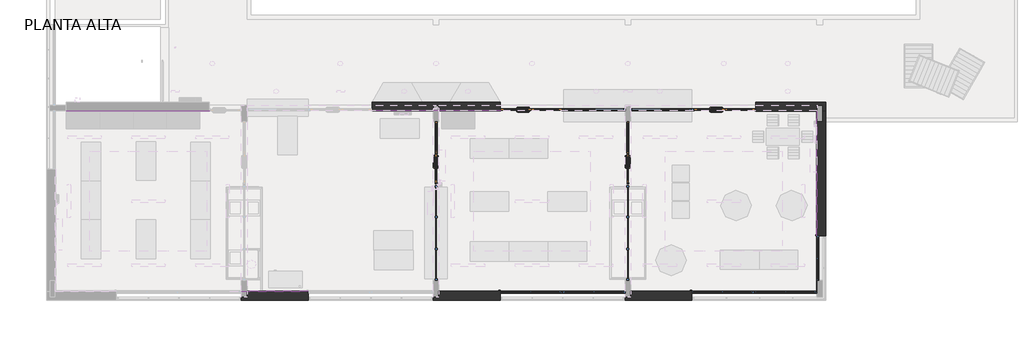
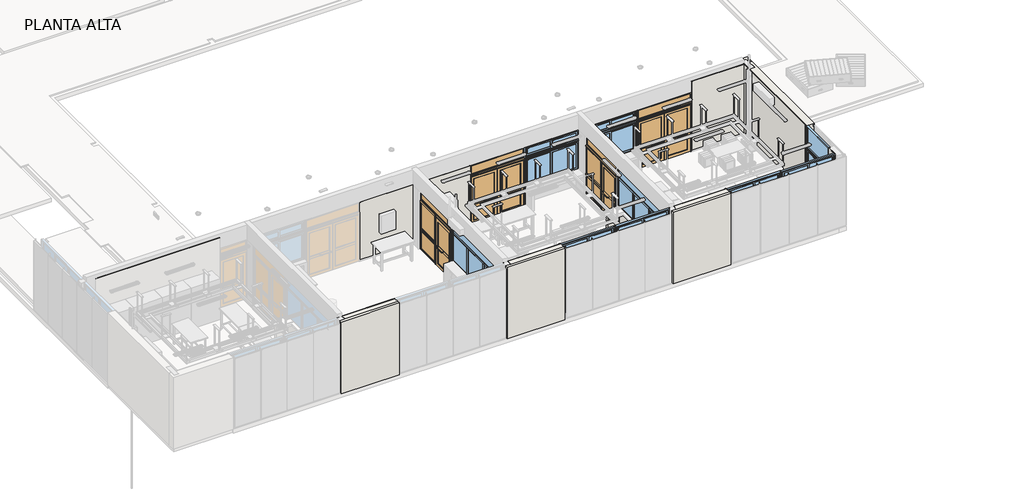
# One storey, part 2 of 14: 13 walls, 7 windows, 4 doors, 4 proxies.
"""IFC4 building model written with IfcOpenShell, lengths in millimetres."""

from ifc_helpers import new_model, si_unit, frame, origin, place, context, project, spatial, polyline, outline, extrude, faceted_brep, transform, mapped, element, save
from components import door_b16d659e, door_238ea07a, window_82c0303f, window_4282aa82, window_1c25787f, window_713f67d2, window_2fd942e6, window_f213b4f0

model = new_model("IFC4")

# Units and contexts
model_context = context("Model", 3, world=origin())
ifc_project = project(units=[si_unit("LENGTHUNIT", "METRE", prefix="MILLI")], contexts=[model_context])

# Site, building, storey
site = spatial("IfcSite", under=ifc_project)
building = spatial("IfcBuilding", under=site)
storey = spatial("IfcBuildingStorey", under=building, Name="PLANTA ALTA", Elevation=3310.0)

# Proxies
placement = place(None, origin())
element("IfcBuildingElementProxy", 1, Name="23-TEL-JUNTA 10x10", ObjectType="23-TEL-JUNTA 10x10", at=placement, inside=storey, context=model_context, shape_type="SweptSolid", body=[
    extrude(outline(polyline([(10088.7173693, 525.2304035), (10088.7173693, 535.2304035), (12488.7173694, 535.2304035), (12488.7173694, 525.2304035), (10088.7173693, 525.2304035)])), frame((0.0, 0.0, 6400.0), z_axis=(0.0, 0.0, 1.0), x_axis=(1.0, 0.0, 0.0)), (0.0, 0.0, 1.0), 10.0),
    extrude(outline(polyline([(16988.7173694, 525.2304035), (16988.7173694, 535.2304035), (19388.7173693, 535.2304035), (19388.7173693, 525.2304035), (16988.7173694, 525.2304035)])), frame((0.0, 0.0, 6400.0), z_axis=(0.0, 0.0, 1.0), x_axis=(1.0, 0.0, 0.0)), (0.0, 0.0, 1.0), 10.0),
    extrude(outline(polyline([(23888.7173693, 525.2304035), (23888.7173693, 535.2304035), (26288.7173693, 535.2304035), (26288.7173693, 525.2304035), (23888.7173693, 525.2304035)])), frame((0.0, 0.0, 6400.0), z_axis=(0.0, 0.0, 1.0), x_axis=(1.0, 0.0, 0.0)), (0.0, 0.0, 1.0), 10.0),
])
element("IfcBuildingElementProxy", 2, Name="23-TEL-JUNTA 10x10", ObjectType="23-TEL-JUNTA 10x10", at=placement, inside=storey, context=model_context, shape_type="SweptSolid", body=[
    extrude(outline(polyline([(30773.7173693, 920.2304035), (30783.7173693, 920.2304035), (30783.7173693, 535.2304035), (30773.7173693, 535.2304035), (30773.7173693, 920.2304035)])), frame((0.0, 0.0, 6400.0), z_axis=(0.0, 0.0, 1.0), x_axis=(1.0, 0.0, 0.0)), (0.0, 0.0, 1.0), 10.0),
    extrude(outline(polyline([(30773.7173693, 7005.2304035), (30783.7173693, 7015.2304035), (30783.7173693, 2520.2304035), (30773.7173693, 2520.2304035), (30773.7173693, 7005.2304035)])), frame((0.0, 0.0, 6400.0), z_axis=(0.0, 0.0, 1.0), x_axis=(1.0, 0.0, 0.0)), (0.0, 0.0, 1.0), 10.0),
])
element("IfcBuildingElementProxy", 3, Name="23-TEL-JUNTA 10x10", ObjectType="23-TEL-JUNTA 10x10", at=placement, inside=storey, context=model_context, shape_type="SweptSolid", body=[
    extrude(outline(polyline([(28588.7173694, 7005.2304035), (28588.7173694, 7015.2304035), (30783.7173693, 7015.2304035), (30773.7173693, 7005.2304035), (28588.7173694, 7005.2304035)])), frame((0.0, 0.0, 6400.0), z_axis=(0.0, 0.0, 1.0), x_axis=(1.0, 0.0, 0.0)), (0.0, 0.0, 1.0), 10.0),
    extrude(outline(polyline([(3788.7173693, 7005.2304035), (3788.7173693, 7015.2304035), (8938.7173694, 7015.2304035), (8938.7173694, 7005.2304035), (3788.7173693, 7005.2304035)])), frame((0.0, 0.0, 6400.0), z_axis=(0.0, 0.0, 1.0), x_axis=(1.0, 0.0, 0.0)), (0.0, 0.0, 1.0), 10.0),
])
element("IfcBuildingElementProxy", 4, Name="23-TEL-JUNTA 10x10", ObjectType="23-TEL-JUNTA 10x10", at=placement, inside=storey, context=model_context, shape_type="SweptSolid", body=[
    extrude(outline(polyline([(14788.7173694, 7020.2304035), (14788.7173694, 7030.2304035), (19388.7173694, 7030.2304035), (19388.7173694, 7020.2304035), (14788.7173694, 7020.2304035)])), frame((0.0, 0.0, 5900.0), z_axis=(0.0, 0.0, 1.0), x_axis=(1.0, 0.0, 0.0)), (0.0, 0.0, 1.0), 10.0),
])

# Doors
door_shape = door_b16d659e(model_context)
element("IfcDoor", 5, ObjectType="A1 Puerta batiente doble  VF superior : A1.3 Puerta batiente doble  VF superior 225x260", at=placement, inside=storey, context=model_context, shape_type="MappedRepresentation", body=[
    mapped(door_shape, transform((20513.7173694, 7053.2304035, 3310.0), x_axis=(1.0, 0.0, 0.0), y_axis=(0.0, 1.0, 0.0), z_axis=(0.0, 0.0, 1.0))),
])
element("IfcDoor", 6, ObjectType="A1 Puerta batiente doble  VF superior : A1.3 Puerta batiente doble  VF superior 225x260", at=placement, inside=storey, context=model_context, shape_type="MappedRepresentation", body=[
    mapped(door_shape, transform((27463.7173694, 7053.2304035, 3310.0), x_axis=(1.0, 0.0, 0.0), y_axis=(0.0, 1.0, 0.0), z_axis=(0.0, 0.0, 1.0))),
])
door_2_shape = door_238ea07a(model_context)
element("IfcDoor", 7, ObjectType="A2 Puerta batiente exterior con panel lateral VF superior : A2.2 Puerta batiente exterior con panel lateral 223x260", at=placement, inside=storey, context=model_context, shape_type="MappedRepresentation", body=[
    mapped(door_2_shape, transform((17088.7173693, 5507.7304035, 3310.0), x_axis=(0.0, 1.0, 0.0), y_axis=(-1.0, 0.0, 0.0), z_axis=(0.0, 0.0, 1.0))),
])
element("IfcDoor", 8, ObjectType="A2 Puerta batiente exterior con panel lateral VF superior : A2.2 Puerta batiente exterior con panel lateral 223x260", at=placement, inside=storey, context=model_context, shape_type="MappedRepresentation", body=[
    mapped(door_2_shape, transform((23988.7173693, 5507.7304035, 3310.0), x_axis=(0.0, 1.0, 0.0), y_axis=(-1.0, 0.0, 0.0), z_axis=(0.0, 0.0, 1.0))),
])

# Walls
element("IfcWall", 9, ObjectType="REVE-INT-Revoque-1.5cm-PET", at=placement, inside=storey, context=model_context, shape_type="Brep", body=[
    faceted_brep([(30773.7173693, 920.2304035, 3310.0), (30773.7173693, 535.2304035, 3310.0), (30773.7173693, 535.2304035, 6400.0), (30773.7173693, 920.2304035, 6400.0), (30773.7173693, 920.2304035, 3760.0), (30788.7173693, 920.2304035, 3310.0), (30788.7173693, 920.2304035, 3760.0), (30788.7173693, 920.2304035, 6410.0), (30788.7173693, 535.2304035, 6410.0), (30788.7173693, 535.2304035, 3310.0), (30783.7173693, 920.2304035, 6410.0), (30783.7173693, 535.2304035, 6410.0), (30783.7173693, 920.2304035, 6400.0), (30783.7173693, 535.2304035, 6400.0)], [[[0, 1, 2, 3, 4]], [[5, 6, 7, 8, 9]], [[0, 5, 9, 1]], [[8, 7, 10, 11]], [[7, 6, 5, 0, 4, 3, 12, 10]], [[9, 8, 11, 13, 2, 1]], [[12, 13, 11, 10]], [[13, 12, 3, 2]]]),
])
element("IfcWall", 10, ObjectType="REVE-INT-Revoque-1.5cm-PET", at=placement, inside=storey, context=model_context, shape_type="SweptSolid", body=[
    extrude(outline(polyline([(23888.7173694, 520.2304035), (19388.7173694, 520.2304035), (19388.7173694, 535.2304035), (23888.7173694, 535.2304035), (23888.7173694, 520.2304035)])), frame((0.0, 0.0, 3310.0), z_axis=(0.0, 0.0, 1.0), x_axis=(1.0, 0.0, 0.0)), (0.0, 0.0, 1.0), 450.0),
])
element("IfcWall", 11, ObjectType="REVE-INT-Revoque-1.5cm-PET", at=placement, inside=storey, context=model_context, shape_type="SweptSolid", body=[
    extrude(outline(polyline([(30773.7173693, 520.2304035), (26288.7173693, 520.2304035), (26288.7173693, 535.2304035), (30773.7173693, 535.2304035), (30773.7173693, 520.2304035)])), frame((0.0, 0.0, 3310.0), z_axis=(0.0, 0.0, 1.0), x_axis=(1.0, 0.0, 0.0)), (0.0, 0.0, 1.0), 450.0),
])
element("IfcWall", 12, ObjectType="REVE-INT-Revoque-1.5cm-PET", at=placement, inside=storey, context=model_context, shape_type="SweptSolid", body=[
    extrude(outline(polyline([(30788.7173693, 2520.2304035), (30788.7173693, 920.2304035), (30773.7173693, 920.2304035), (30773.7173693, 2520.2304035), (30788.7173693, 2520.2304035)])), frame((0.0, 0.0, 3310.0), z_axis=(0.0, 0.0, 1.0), x_axis=(1.0, 0.0, 0.0)), (0.0, 0.0, 1.0), 450.0),
])
element("IfcWall", 13, ObjectType="MURO-EXT/INT-M1a-32.5cm-PET", at=placement, inside=storey, context=model_context, shape_type="Brep", body=[
    faceted_brep([(31098.7173693, 7005.2304035, 3260.0), (31098.7173693, 7005.2304035, 6410.0), (30988.7173693, 7005.2304035, 6410.0), (30988.7173693, 7005.2304035, 3260.0), (28588.7173694, 7005.2304035, 6400.0), (28588.7173694, 7005.2304035, 3260.0), (30773.7173693, 7005.2304035, 3260.0), (30788.7173693, 7005.2304035, 3260.0), (30788.7173693, 7005.2304035, 6410.0), (30783.7173693, 7005.2304035, 6410.0), (30783.7173693, 7005.2304035, 6400.0), (30773.7173693, 7005.2304035, 6400.0), (31098.7173693, 7330.2304035, 3260.0), (28588.7173694, 7330.2304035, 3260.0), (28588.7173694, 7330.2304035, 6410.0), (31098.7173693, 7330.2304035, 6410.0), (30988.7173693, 7220.0804035, 3260.0), (30788.7173693, 7220.0804035, 3260.0), (28588.7173694, 7220.2304035, 6410.0), (30788.7173693, 7220.2304035, 6410.0), (30801.4173693, 7220.2304035, 6410.0), (30988.7173693, 7220.2304035, 6410.0), (28588.7173694, 7015.2304035, 6410.0), (30783.7173693, 7015.2304035, 6410.0), (30788.7173693, 7020.2304035, 6410.0), (28588.7173694, 7020.2304035, 6410.0), (28588.7173694, 7015.2304035, 6400.0), (28588.7173694, 7020.2304035, 5910.0), (28588.7173694, 7220.2304035, 5910.0), (30783.7173693, 7015.2304035, 6400.0), (30788.7173693, 7220.2304035, 5910.0), (30788.7173693, 7220.2304035, 3760.0000069), (30988.7173693, 7220.2304035, 3760.0), (30788.7173693, 7020.2304035, 5910.0)], [[[0, 1, 2, 3]], [[4, 5, 6, 7, 8, 9, 10, 11]], [[12, 13, 14, 15]], [[13, 12, 0, 3, 16, 17, 7, 6, 5]], [[15, 14, 18, 19, 20, 21, 2, 1]], [[22, 23, 9, 8, 24, 25]], [[14, 13, 5, 4, 26, 22, 25, 27, 28, 18]], [[1, 0, 12, 15]], [[29, 23, 22, 26]], [[29, 26, 4, 11, 10]], [[23, 29, 10, 9]], [[21, 20, 19, 18, 28, 30, 31, 17, 16, 32]], [[7, 17, 31, 30, 33, 24, 8]], [[21, 32, 16, 3, 2]], [[33, 27, 25, 24]], [[27, 33, 30, 28]]]),
])
element("IfcWall", 14, ObjectType="MURO-EXT/INT-M1a-32.5cm-PET", at=placement, inside=storey, context=model_context, shape_type="Brep", body=[
    faceted_brep([(10088.7173693, 210.2304035, 6410.0), (10088.7173693, 210.2304035, 3260.0), (12488.7173694, 210.2304035, 3260.0), (12488.7173694, 210.2304035, 6410.0), (12488.7173694, 535.2304035, 6400.0), (12488.7173694, 535.2304035, 3260.0), (10288.7173694, 535.2304035, 3260.0), (10288.7173694, 535.2304035, 6400.0), (10088.7173693, 320.2304035, 3260.0), (10288.7173694, 320.2304035, 3260.0), (12488.7173694, 320.2304035, 3260.0), (12488.7173694, 520.2304035, 3260.0), (10288.7173694, 520.2304035, 3260.0), (10088.7173693, 320.2304035, 6410.0), (10088.7173693, 320.2304035, 5910.0), (12488.7173694, 320.2304035, 3760.0), (12488.7173694, 520.2304035, 3760.0), (12488.7173694, 525.2304035, 6400.0), (12488.7173694, 525.2304035, 6410.0), (12488.7173694, 520.2304035, 6410.0), (12488.7173694, 320.2304035, 6410.0), (10288.7173694, 525.2304035, 6400.0), (10288.7173694, 525.2304035, 6410.0), (10288.7173694, 320.2304035, 6410.0), (10288.7173694, 320.2304035, 5910.0), (10288.7173694, 320.2304035, 3760.0), (10288.7173694, 520.2304035, 3760.0), (10288.7173694, 520.2304035, 6410.0)], [[[0, 1, 2, 3]], [[4, 5, 6, 7]], [[2, 1, 8, 9, 10]], [[6, 5, 11, 12]], [[1, 0, 13, 14, 8]], [[3, 2, 10, 15, 16, 11, 5, 4, 17, 18, 19, 20]], [[17, 4, 7, 21]], [[18, 17, 21, 22]], [[13, 23, 24, 25, 15, 10, 9, 8, 14]], [[21, 7, 6, 12, 26, 25, 24, 23, 27, 22]], [[19, 27, 23, 20]], [[27, 19, 18, 22]], [[13, 0, 3, 20, 23]], [[26, 16, 15, 25]], [[16, 26, 12, 11]]]),
    faceted_brep([(16988.7173694, 210.2304035, 6410.0), (16988.7173694, 210.2304035, 3260.0), (19388.7173693, 210.2304035, 3260.0), (19388.7173693, 210.2304035, 6410.0), (19388.7173693, 535.2304035, 6400.0), (19388.7173693, 535.2304035, 3260.0), (17188.7173694, 535.2304035, 3260.0), (17188.7173694, 535.2304035, 6400.0), (16988.7173694, 320.2304035, 3260.0), (17188.7173694, 320.2304035, 3260.0), (19388.7173693, 320.2304035, 3260.0), (19388.7173693, 520.2304035, 3260.0), (17188.7173694, 520.2304035, 3260.0), (16988.7173694, 320.2304035, 6410.0), (16988.7173694, 320.2304035, 5910.0), (19388.7173693, 320.2304035, 3760.0), (19388.7173693, 520.2304035, 3760.0), (19388.7173693, 525.2304035, 6400.0), (19388.7173693, 525.2304035, 6410.0), (19388.7173693, 520.2304035, 6410.0), (19388.7173693, 320.2304035, 6410.0), (17188.7173694, 525.2304035, 6400.0), (17188.7173694, 525.2304035, 6410.0), (17188.7173694, 320.2304035, 3760.0), (17188.7173694, 320.2304035, 6410.0), (17188.7173694, 320.2304035, 5910.0), (17188.7173694, 520.2304035, 3760.0), (17188.7173694, 520.2304035, 6410.0)], [[[0, 1, 2, 3]], [[4, 5, 6, 7]], [[2, 1, 8, 9, 10]], [[6, 5, 11, 12]], [[1, 0, 13, 14, 8]], [[3, 2, 10, 15, 16, 11, 5, 4, 17, 18, 19, 20]], [[17, 4, 7, 21]], [[18, 17, 21, 22]], [[23, 15, 10, 9, 8, 14, 13, 24, 25]], [[21, 7, 6, 12, 26, 23, 25, 24, 27, 22]], [[19, 27, 24, 20]], [[27, 19, 18, 22]], [[13, 0, 3, 20, 24]], [[26, 16, 15, 23]], [[16, 26, 12, 11]]]),
    faceted_brep([(23888.7173693, 210.2304035, 6410.0), (23888.7173693, 210.2304035, 3260.0), (26288.7173693, 210.2304035, 3260.0), (26288.7173693, 210.2304035, 6410.0), (26288.7173693, 535.2304035, 6400.0), (26288.7173693, 535.2304035, 3760.0), (26288.7173693, 535.2304035, 3310.0), (26288.7173693, 535.2304035, 3260.0), (24088.7173694, 535.2304035, 3260.0), (24088.7173694, 535.2304035, 6400.0), (23888.7173693, 320.2304035, 3260.0), (24088.7173694, 320.2304035, 3260.0), (26288.7173693, 320.2304035, 3260.0), (26288.7173693, 520.2304035, 3260.0), (24088.7173694, 520.2304035, 3260.0), (23888.7173693, 320.2304035, 6410.0), (23888.7173693, 320.2304035, 5910.0), (26288.7173693, 320.2304035, 3760.0), (26288.7173693, 520.2304035, 3760.0), (26288.7173693, 525.2304035, 6400.0), (26288.7173693, 525.2304035, 6410.0), (26288.7173693, 520.2304035, 6410.0), (26288.7173693, 320.2304035, 6410.0), (24088.7173694, 520.2304035, 6410.0), (24088.7173694, 320.2304035, 6410.0), (24088.7173694, 525.2304035, 6400.0), (24088.7173694, 525.2304035, 6410.0), (24088.7173694, 320.2304035, 3760.0), (24088.7173694, 320.2304035, 5910.0), (24088.7173694, 520.2304035, 3760.0)], [[[0, 1, 2, 3]], [[4, 5, 6, 7, 8, 9]], [[2, 1, 10, 11, 12]], [[8, 7, 13, 14]], [[1, 0, 15, 16, 10]], [[3, 2, 12, 17, 18, 13, 7, 6, 5, 4, 19, 20, 21, 22]], [[21, 23, 24, 22]], [[19, 4, 9, 25]], [[20, 19, 25, 26]], [[27, 17, 12, 11, 10, 16, 15, 24, 28]], [[24, 23, 26, 25, 9, 8, 14, 29, 27, 28]], [[23, 21, 20, 26]], [[15, 0, 3, 22, 24]], [[29, 18, 17, 27]], [[18, 29, 14, 13]]]),
])
element("IfcWall", 15, ObjectType="MURO-EXT/INT-M1a-32.5cm-PET", at=placement, inside=storey, context=model_context, shape_type="Brep", body=[
    faceted_brep([(30773.7173693, 7005.2304035, 3260.0), (30773.7173693, 2520.2304035, 3260.0), (30773.7173693, 2520.2304035, 6400.0), (30773.7173693, 7005.2304035, 6400.0), (31098.7173693, 2520.2304035, 3260.0), (31098.7173693, 6620.2304035, 3260.0), (31098.7173693, 7005.2304035, 3260.0), (31098.7173693, 7005.2304035, 6410.0), (31098.7173693, 2520.2304035, 6410.0), (30788.7173693, 7005.2304035, 3260.0), (30788.7173693, 2520.2304035, 3260.0), (31048.7173693, 2520.2304035, 3260.0), (30988.7173693, 2520.2304035, 3260.0), (30988.7173693, 7005.2304035, 3260.0), (30783.7173693, 2520.2304035, 6410.0), (30783.7173693, 2520.2304035, 6400.0), (30788.7173693, 2520.2304035, 3760.0), (30988.7173693, 2520.2304035, 3760.0), (30988.7173693, 7005.2304035, 6410.0), (30988.7173693, 6620.2304035, 6410.0), (30788.7173693, 6620.2304035, 6410.0), (30788.7173693, 7005.2304035, 6410.0), (30783.7173693, 7005.2304035, 6410.0), (30783.7173693, 7005.2304035, 6400.0), (30788.7173693, 6620.2304035, 3760.0), (30988.7173693, 6620.2304035, 3760.0)], [[[0, 1, 2, 3]], [[4, 5, 6, 7, 8]], [[1, 0, 9, 10]], [[6, 5, 4, 11, 12, 13]], [[4, 8, 14, 15, 2, 1, 10, 16, 17, 12, 11]], [[8, 7, 18, 19, 20, 21, 22, 14]], [[7, 6, 13, 18]], [[0, 3, 23, 22, 21, 9]], [[15, 14, 22, 23]], [[15, 23, 3, 2]], [[20, 24, 16, 10, 9, 21]], [[24, 20, 19, 25]], [[25, 19, 18, 13, 12, 17]], [[25, 17, 16, 24]]]),
])
element("IfcWall", 16, ObjectType="MURO-EXT/INT-M2a-31cm-PET", at=placement, inside=storey, context=model_context, shape_type="Brep", body=[
    faceted_brep([(19388.7173694, 7020.2304035, 3260.0), (19388.7173694, 7020.2304035, 5900.0), (17188.7173694, 7020.2304035, 5900.0), (17188.7173694, 7020.2304035, 3260.0), (14788.7173694, 7020.2304035, 5900.0), (14788.7173694, 7020.2304035, 3260.0), (16988.7173694, 7020.2304035, 3260.0), (16988.7173694, 7020.2304035, 5900.0), (19388.7173694, 7330.2304035, 3260.0), (14788.7173694, 7330.2304035, 3260.0), (14788.7173694, 7330.2304035, 3310.0), (14788.7173694, 7330.2304035, 3380.0), (14788.7173694, 7330.2304035, 5910.0), (19388.7173694, 7330.2304035, 5910.0), (19388.7173694, 7330.2304035, 3380.0), (19388.7173694, 7330.2304035, 3310.0), (17188.7173694, 7220.2304035, 3260.0), (16988.7173694, 7220.2304035, 3260.0), (19388.7173694, 7030.2304035, 5910.0), (19388.7173694, 7030.2304035, 5900.0), (14788.7173694, 7030.2304035, 5910.0), (16988.7173694, 7030.2304035, 5910.0), (16988.7173694, 7220.2304035, 5910.0), (17188.7173694, 7220.2304035, 5910.0), (17188.7173694, 7030.2304035, 5910.0), (14788.7173694, 7030.2304035, 5900.0), (17188.7173694, 7030.2304035, 5900.0), (16988.7173694, 7030.2304035, 5900.0)], [[[0, 1, 2, 3]], [[4, 5, 6, 7]], [[8, 9, 10, 11, 12, 13, 14, 15]], [[9, 8, 0, 3, 16, 17, 6, 5]], [[0, 8, 15, 14, 13, 18, 19, 1]], [[13, 12, 20, 21, 22, 23, 24, 18]], [[9, 5, 4, 25, 20, 12, 11, 10]], [[19, 18, 24, 26]], [[20, 25, 27, 21]], [[1, 19, 26, 2]], [[25, 4, 7, 27]], [[16, 23, 22, 17]], [[17, 22, 21, 27, 7, 6]], [[23, 16, 3, 2, 26, 24]]]),
])
element("IfcWall", 17, ObjectType="MURO-INT/INT-M20a-15cm-PET", at=placement, inside=storey, context=model_context, shape_type="Brep", body=[
    faceted_brep([(24520.0173694, 4120.2304035, 4130.0), (24063.7173694, 4120.2304035, 4130.0), (23913.7173694, 4120.2304035, 4130.0), (23457.4173694, 4120.2304035, 4130.0), (23457.4173694, 4120.2304035, 3310.0), (23458.3173694, 4120.2304035, 3310.0), (23458.3173694, 4120.2304035, 3260.0), (23913.7173694, 4120.2304035, 3260.0), (24063.7173694, 4120.2304035, 3260.0), (24519.1173694, 4120.2304035, 3260.0), (24519.1173694, 4120.2304035, 3310.0), (24520.0173694, 4120.2304035, 3310.0), (23457.4173694, 4270.2304035, 4130.0), (24520.0173694, 4270.2304035, 4130.0), (24520.0173694, 4270.2304035, 3310.0), (24519.1173694, 4270.2304035, 3310.0), (24519.1173694, 4270.2304035, 3260.0), (23458.3173694, 4270.2304035, 3260.0), (23458.3173694, 4270.2304035, 3310.0), (23457.4173694, 4270.2304035, 3310.0)], [[[0, 1, 2, 3, 4, 5, 6, 7, 8, 9, 10, 11]], [[12, 13, 14, 15, 16, 17, 18, 19]], [[9, 8, 7, 6, 17, 16]], [[13, 0, 11, 14]], [[3, 2, 1, 0, 13, 12]], [[3, 12, 19, 4]], [[18, 5, 4, 19]], [[10, 15, 14, 11]], [[5, 18, 17, 6]], [[15, 10, 9, 16]]]),
])
element("IfcWall", 18, ObjectType="MURO-INT/INT-M20a-15cm-PET", at=placement, inside=storey, context=model_context, shape_type="Brep", body=[
    faceted_brep([(23913.7173694, 4120.2304035, 3260.0), (23913.7173694, 3245.2304035, 3260.0), (23913.7173694, 3095.2304035, 3260.0), (23913.7173694, 2145.2304035, 3260.0), (23913.7173694, 1995.2304035, 3260.0), (23913.7173694, 1120.2304035, 3260.0), (23913.7173694, 1120.2304035, 4130.0), (23913.7173694, 1995.2304035, 4130.0), (23913.7173694, 2145.2304035, 4130.0), (23913.7173694, 3095.2304035, 4130.0), (23913.7173694, 3245.2304035, 4130.0), (23913.7173694, 4120.2304035, 4130.0), (24063.7173694, 4120.2304035, 3260.0), (24063.7173694, 4120.2304035, 4130.0), (24063.7173694, 3245.2304035, 4130.0), (24063.7173694, 3095.2304035, 4130.0), (24063.7173694, 2145.2304035, 4130.0), (24063.7173694, 1995.2304035, 4130.0), (24063.7173694, 1120.2304035, 4130.0), (24063.7173694, 1120.2304035, 3260.0), (24063.7173694, 1995.2304035, 3260.0), (24063.7173694, 2145.2304035, 3260.0), (24063.7173694, 3095.2304035, 3260.0), (24063.7173694, 3245.2304035, 3260.0)], [[[0, 1, 2, 3, 4, 5, 6, 7, 8, 9, 10, 11]], [[12, 13, 14, 15, 16, 17, 18, 19, 20, 21, 22, 23]], [[5, 4, 3, 2, 1, 0, 12, 23, 22, 21, 20, 19]], [[11, 10, 9, 8, 7, 6, 18, 17, 16, 15, 14, 13]], [[0, 11, 13, 12]], [[6, 5, 19, 18]]]),
])
element("IfcWall", 19, ObjectType="MURO-INT/INT-M20a-15cm-PET", at=placement, inside=storey, context=model_context, shape_type="Brep", body=[
    faceted_brep([(24520.0173694, 970.2304035, 4130.0), (23458.3173694, 970.2304035, 4130.0), (23458.3173694, 970.2304035, 3310.0), (23458.3173694, 970.2304035, 3260.0), (24519.1173694, 970.2304035, 3260.0), (24519.1173694, 970.2304035, 3310.0), (24520.0173694, 970.2304035, 3310.0), (23458.3173694, 1120.2304035, 4130.0), (23913.7173694, 1120.2304035, 4130.0), (24063.7173694, 1120.2304035, 4130.0), (24520.0173694, 1120.2304035, 4130.0), (24520.0173694, 1120.2304035, 3310.0), (24519.1173694, 1120.2304035, 3310.0), (24519.1173694, 1120.2304035, 3260.0), (24063.7173694, 1120.2304035, 3260.0), (23913.7173694, 1120.2304035, 3260.0), (23458.3173694, 1120.2304035, 3260.0), (23458.3173694, 1120.2304035, 3310.0)], [[[0, 1, 2, 3, 4, 5, 6]], [[7, 8, 9, 10, 11, 12, 13, 14, 15, 16, 17]], [[3, 16, 15, 14, 13, 4]], [[10, 0, 6, 11]], [[1, 0, 10, 9, 8, 7]], [[1, 7, 17, 16, 3, 2]], [[5, 12, 11, 6]], [[12, 5, 4, 13]]]),
])
element("IfcWall", 20, ObjectType="MURO-INT/INT-M20a-15cm-PET", at=placement, inside=storey, context=model_context, shape_type="SweptSolid", body=[
    extrude(outline(polyline([(4130.0, 23913.7173694), (4130.0, 23457.4173694), (3310.0, 23457.4173694), (3310.0, 23458.3173694), (3260.0, 23458.3173694), (3260.0, 23913.7173694), (4130.0, 23913.7173694)])), frame((0.0, 3095.2304035, 0.0), z_axis=(0.0, 1.0, 0.0), x_axis=(0.0, 0.0, 1.0)), (0.0, 0.0, 1.0), 150.0),
    extrude(outline(polyline([(4130.0, 24520.0173694), (4130.0, 24063.7173694), (3260.0, 24063.7173694), (3260.0, 24519.1173694), (3310.0, 24519.1173694), (3310.0, 24520.0173694), (4130.0, 24520.0173694)])), frame((0.0, 3095.2304035, 0.0), z_axis=(0.0, 1.0, 0.0), x_axis=(0.0, 0.0, 1.0)), (0.0, 0.0, 1.0), 150.0),
])
element("IfcWall", 21, ObjectType="MURO-INT/INT-M20a-15cm-PET", at=placement, inside=storey, context=model_context, shape_type="SweptSolid", body=[
    extrude(outline(polyline([(4130.0, 23913.7173694), (4130.0, 23457.4173694), (3310.0, 23457.4173694), (3310.0, 23458.3173694), (3260.0, 23458.3173694), (3260.0, 23913.7173694), (4130.0, 23913.7173694)])), frame((0.0, 1995.2304035, 0.0), z_axis=(0.0, 1.0, 0.0), x_axis=(0.0, 0.0, 1.0)), (0.0, 0.0, 1.0), 150.0),
    extrude(outline(polyline([(4130.0, 24520.0173694), (4130.0, 24063.7173694), (3260.0, 24063.7173694), (3260.0, 24519.1173694), (3310.0, 24519.1173694), (3310.0, 24520.0173694), (4130.0, 24520.0173694)])), frame((0.0, 1995.2304035, 0.0), z_axis=(0.0, 1.0, 0.0), x_axis=(0.0, 0.0, 1.0)), (0.0, 0.0, 1.0), 150.0),
])

# Windows
window_shape = window_82c0303f(model_context)
element("IfcWindow", 22, ObjectType="A12 Ventana_Corrediza_PC_4 hojas AP : A12.1 Ventana_Corrediza_PC_4 hojas 450x265 AP45", at=placement, inside=storey, context=model_context, shape_type="MappedRepresentation", body=[
    mapped(window_shape, transform((21638.7173693, 422.7304035, 3250.0), x_axis=(-1.0, 0.0, 0.0), y_axis=(0.0, -1.0, 0.0), z_axis=(0.0, 0.0, 1.0))),
])
element("IfcWindow", 23, ObjectType="A12 Ventana_Corrediza_PC_4 hojas AP : A12.1 Ventana_Corrediza_PC_4 hojas 450x265 AP45", at=placement, inside=storey, context=model_context, shape_type="MappedRepresentation", body=[
    mapped(window_shape, transform((28538.7173693, 422.7304035, 3250.0), x_axis=(-1.0, 0.0, 0.0), y_axis=(0.0, -1.0, 0.0), z_axis=(0.0, 0.0, 1.0))),
])
window_2_shape = window_4282aa82(model_context)
element("IfcWindow", 24, ObjectType="A6 Divisor laboratorios 3 paños : A6.1 Divisor laboratorios 340x260 parante intermedio desde mesada", at=placement, inside=storey, context=model_context, shape_type="MappedRepresentation", body=[
    mapped(window_2_shape, transform((24113.7173694, 2620.2304035, 3310.0), x_axis=(0.0, -1.0, 0.0), y_axis=(1.0, 0.0, 0.0), z_axis=(0.0, 0.0, 1.0))),
])
window_3_shape = window_1c25787f(model_context)
element("IfcWindow", 25, ObjectType="A6 Divisor laboratorios 3 paños : A6.2 Divisor laboratorios 340x260 parante intermedio desde suelo", at=placement, inside=storey, context=model_context, shape_type="MappedRepresentation", body=[
    mapped(window_3_shape, transform((16963.7173694, 2620.2304035, 3310.0), x_axis=(0.0, -1.0, 0.0), y_axis=(1.0, 0.0, 0.0), z_axis=(0.0, 0.0, 1.0))),
])
window_4_shape = window_713f67d2(model_context)
element("IfcWindow", 26, ObjectType="A8 Ventana_Corrediza_PC_2 hojas AP : A8 Ventana_Corrediza_PC_2 hojas AP 160X265", at=placement, inside=storey, context=model_context, shape_type="MappedRepresentation", body=[
    mapped(window_4_shape, transform((30761.2173693, 1720.2304035, 3410.0), x_axis=(0.0, -1.0, 0.0), y_axis=(1.0, 0.0, 0.0), z_axis=(0.0, 0.0, 1.0))),
])
window_5_shape = window_2fd942e6(model_context)
element("IfcWindow", 27, ObjectType="A4 Cerramiento aula Exterior_vidrios corredizos : A4 Cerramiento aula Exterior_vidrios corredizos", at=placement, inside=storey, context=model_context, shape_type="MappedRepresentation", body=[
    mapped(window_5_shape, transform((22763.7173694, 7003.2304035, 3310.0), x_axis=(-1.0, 0.0, 0.0), y_axis=(0.0, -1.0, 0.0), z_axis=(0.0, 0.0, 1.0))),
])
window_6_shape = window_f213b4f0(model_context)
element("IfcWindow", 28, ObjectType="A4 Cerramiento aula Exterior_vidrios corredizos : A4 Cerramiento aula Exterior_vidrios corredizos", at=placement, inside=storey, context=model_context, shape_type="MappedRepresentation", body=[
    mapped(window_6_shape, transform((25213.7173694, 7003.2304035, 3310.0), x_axis=(1.0, 0.0, 0.0), y_axis=(0.0, 1.0, 0.0), z_axis=(0.0, 0.0, 1.0))),
])

save(model, "model.ifc")
